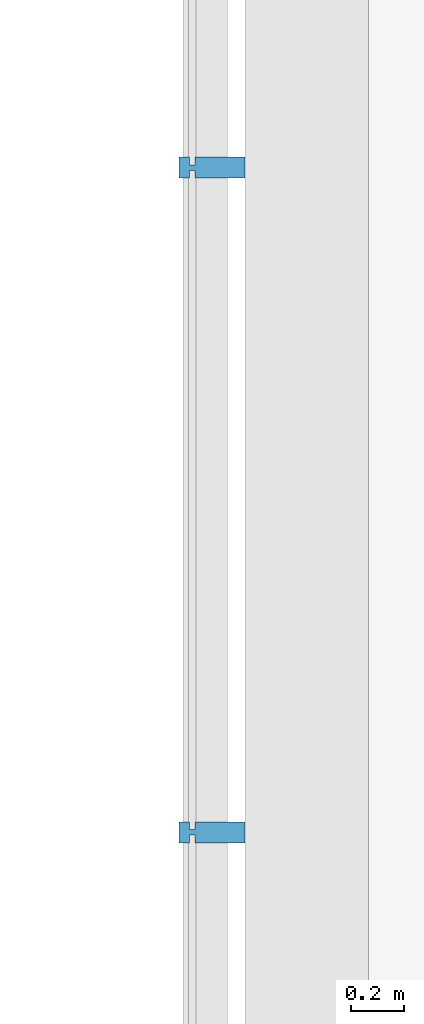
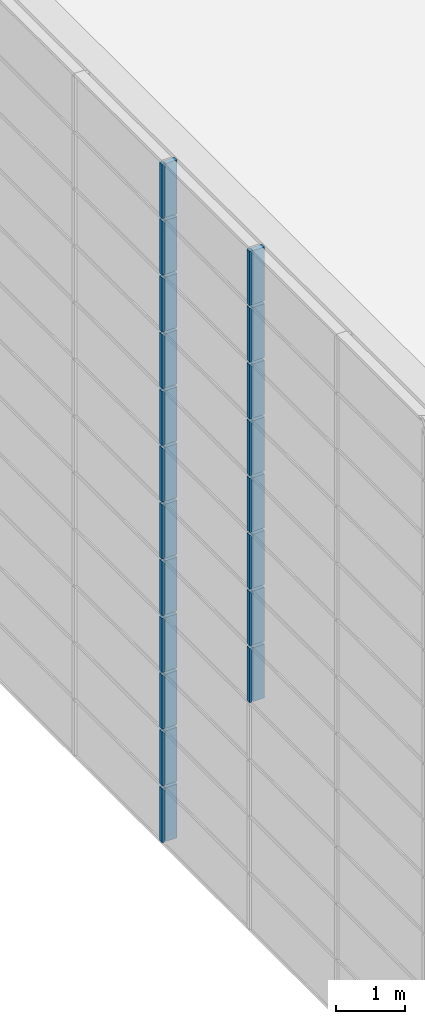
# One storey, part 69 of 105: 20 building element parts, 4 elements without a shape of their own.
"""IFC4 building model written with IfcOpenShell, lengths in millimetres."""

from ifc_helpers import new_model, entity, si_unit, converted_unit, derived_unit, direction, frame, origin_with_axes, place, context, subcontext, project, spatial, triangles, material, element, aggregate, save


model = new_model("IFC4")

# Units and contexts
model_context = context("Model", 3, precision=1e-05, world=origin_with_axes(), true_north=direction((0.0, 1.0)))
body_context = subcontext(model_context, "Body", "Model", "MODEL_VIEW")
ifc_project = project(units=[si_unit("LENGTHUNIT", "METRE", prefix="MILLI"), si_unit("AREAUNIT", "SQUARE_METRE"), si_unit("VOLUMEUNIT", "CUBIC_METRE"), converted_unit("PLANEANGLEUNIT", "DEGREE", entity("IfcLengthMeasure", 0.017453), si_unit("PLANEANGLEUNIT", "RADIAN"), dimensions=[0, 0, 0, 0, 0, 0, 0]), si_unit("SOLIDANGLEUNIT", "STERADIAN"), si_unit("MASSUNIT", "GRAM"), si_unit("TIMEUNIT", "SECOND"), si_unit("THERMODYNAMICTEMPERATUREUNIT", "DEGREE_CELSIUS"), si_unit("LUMINOUSINTENSITYUNIT", "LUMEN"), si_unit("POWERUNIT", "WATT"), derived_unit("THERMALTRANSMITTANCEUNIT", [(si_unit("POWERUNIT", "WATT"), 1), (si_unit("THERMODYNAMICTEMPERATUREUNIT", "KELVIN"), -1), (si_unit("AREAUNIT", "SQUARE_METRE"), -1)])], contexts=[model_context])

# Site, building, storey
site_placement = place(None, origin_with_axes())
site = spatial("IfcSite", under=ifc_project, at=site_placement, Name="Default Site", CompositionType="ELEMENT")
building_placement = place(site_placement, origin_with_axes())
building = spatial("IfcBuilding", under=site, at=building_placement, Name="Default Building", CompositionType="ELEMENT")
storey_placement = place(building_placement, origin_with_axes())
storey = spatial("IfcBuildingStorey", under=building, at=storey_placement, Name="OG - Story", CompositionType="ELEMENT", Elevation=0.0)

# Curtain wall, building element parts
curtain_wall_1_placement = place(storey_placement, origin_with_axes())
curtain_wall_1 = element("IfcCurtainWall", 1, at=curtain_wall_1_placement, inside=storey, Name="Fassade-003", PredefinedType="NOTDEFINED")
ifc_material = material(Name="Blech")
building_element_part_1_placement = place(curtain_wall_1_placement, frame((31551.391327, -51326.104944, 0.0), z_axis=(0.0, 0.0, 1.0), x_axis=(1.0, 0.0, 0.0)))
building_element_part_1 = element("IfcBuildingElementPart", 2, at=building_element_part_1_placement, material=ifc_material, Name="Blech", PredefinedType="NOTDEFINED", context=body_context, shape_type="Tessellation", body=[
    triangles([(200.0, 11328.421, 975.0), (10.0, 11328.421, 975.0), (200.0, 11408.421, 975.0), (10.0, 11358.421, 975.0), (10.0, 11378.421, 975.0), (-9.999, 11358.421, 975.0), (-9.999, 11378.421, 975.0), (-9.999, 11408.421, 975.0), (-9.999, 11328.421, 975.0), (-49.999, 11328.421, 975.0), (-49.999, 11408.421, 975.0), (10.0, 11408.421, 975.0), (10.0, 11378.421, 25.0), (-9.999, 11378.421, 25.0), (-9.999, 11408.421, 25.0), (-49.999, 11408.421, 25.0), (-49.999, 11328.421, 25.0), (-9.999, 11328.421, 25.0), (-9.999, 11358.421, 25.0), (10.0, 11358.421, 25.0), (10.0, 11328.421, 25.0), (200.0, 11328.421, 25.0), (200.0, 11408.421, 25.0), (10.0, 11408.421, 25.0)], [[1, 2, 3], [3, 2, 4], [3, 4, 5], [5, 4, 6], [5, 6, 7], [8, 9, 10], [8, 10, 11], [3, 5, 12], [5, 13, 14], [5, 14, 7], [7, 14, 15], [7, 15, 8], [15, 16, 11], [15, 11, 8], [10, 11, 16], [10, 16, 17], [18, 9, 10], [18, 10, 17], [9, 18, 19], [9, 19, 6], [4, 6, 19], [4, 19, 20], [2, 4, 20], [2, 20, 21], [2, 21, 22], [2, 22, 1], [3, 1, 22], [3, 22, 23], [12, 3, 23], [12, 23, 24], [12, 24, 13], [12, 13, 5], [23, 24, 22], [22, 24, 13], [22, 13, 20], [20, 13, 14], [20, 14, 19], [18, 15, 16], [18, 16, 17], [22, 20, 21]], closed=False),
])
building_element_part_2_placement = place(curtain_wall_1_placement, frame((31551.391327, -51326.104944, 0.0), z_axis=(0.0, 0.0, 1.0), x_axis=(1.0, 0.0, 0.0)))
building_element_part_2 = element("IfcBuildingElementPart", 3, at=building_element_part_2_placement, material=ifc_material, Name="Blech", PredefinedType="NOTDEFINED", context=body_context, shape_type="Tessellation", body=[
    triangles([(200.0, 11328.421, 1975.0), (10.0, 11328.421, 1975.0), (200.0, 11408.421, 1975.0), (10.0, 11358.421, 1975.0), (10.0, 11378.421, 1975.0), (-9.999, 11358.421, 1975.0), (-9.999, 11378.421, 1975.0), (-9.999, 11408.421, 1975.0), (-9.999, 11328.421, 1975.0), (-49.999, 11328.421, 1975.0), (-49.999, 11408.421, 1975.0), (10.0, 11408.421, 1975.0), (10.0, 11378.421, 1025.0), (-9.999, 11378.421, 1025.0), (-9.999, 11408.421, 1025.0), (-49.999, 11408.421, 1025.0), (-49.999, 11328.421, 1025.0), (-9.999, 11328.421, 1025.0), (-9.999, 11358.421, 1025.0), (10.0, 11358.421, 1025.0), (10.0, 11328.421, 1025.0), (200.0, 11328.421, 1025.0), (200.0, 11408.421, 1025.0), (10.0, 11408.421, 1025.0)], [[1, 2, 3], [3, 2, 4], [3, 4, 5], [5, 4, 6], [5, 6, 7], [8, 9, 10], [8, 10, 11], [3, 5, 12], [5, 13, 14], [5, 14, 7], [7, 14, 15], [7, 15, 8], [15, 16, 11], [15, 11, 8], [10, 11, 16], [10, 16, 17], [18, 9, 10], [18, 10, 17], [9, 18, 19], [9, 19, 6], [4, 6, 19], [4, 19, 20], [2, 4, 20], [2, 20, 21], [2, 21, 22], [2, 22, 1], [3, 1, 22], [3, 22, 23], [12, 3, 23], [12, 23, 24], [12, 24, 13], [12, 13, 5], [23, 24, 22], [22, 24, 13], [22, 13, 20], [20, 13, 14], [20, 14, 19], [18, 15, 16], [18, 16, 17], [22, 20, 21]], closed=False),
])
building_element_part_3_placement = place(curtain_wall_1_placement, frame((31551.391327, -51326.104944, 0.0), z_axis=(0.0, 0.0, 1.0), x_axis=(1.0, 0.0, 0.0)))
building_element_part_3 = element("IfcBuildingElementPart", 4, at=building_element_part_3_placement, material=ifc_material, Name="Blech", PredefinedType="NOTDEFINED", context=body_context, shape_type="Tessellation", body=[
    triangles([(200.0, 11328.421, 2975.0), (10.0, 11328.421, 2975.0), (200.0, 11408.421, 2975.0), (10.0, 11358.421, 2975.0), (10.0, 11378.421, 2975.0), (-9.999, 11358.421, 2975.0), (-9.999, 11378.421, 2975.0), (-9.999, 11408.421, 2975.0), (-9.999, 11328.421, 2975.0), (-49.999, 11328.421, 2975.0), (-49.999, 11408.421, 2975.0), (10.0, 11408.421, 2975.0), (10.0, 11378.421, 2025.0), (-9.999, 11378.421, 2025.0), (-9.999, 11408.421, 2025.0), (-49.999, 11408.421, 2025.0), (-49.999, 11328.421, 2025.0), (-9.999, 11328.421, 2025.0), (-9.999, 11358.421, 2025.0), (10.0, 11358.421, 2025.0), (10.0, 11328.421, 2025.0), (200.0, 11328.421, 2025.0), (200.0, 11408.421, 2025.0), (10.0, 11408.421, 2025.0)], [[1, 2, 3], [3, 2, 4], [3, 4, 5], [5, 4, 6], [5, 6, 7], [8, 9, 10], [8, 10, 11], [3, 5, 12], [5, 13, 14], [5, 14, 7], [7, 14, 15], [7, 15, 8], [15, 16, 11], [15, 11, 8], [10, 11, 16], [10, 16, 17], [18, 9, 10], [18, 10, 17], [9, 18, 19], [9, 19, 6], [4, 6, 19], [4, 19, 20], [2, 4, 20], [2, 20, 21], [2, 21, 22], [2, 22, 1], [3, 1, 22], [3, 22, 23], [12, 3, 23], [12, 23, 24], [12, 24, 13], [12, 13, 5], [23, 24, 22], [22, 24, 13], [22, 13, 20], [20, 13, 14], [20, 14, 19], [18, 15, 16], [18, 16, 17], [22, 20, 21]], closed=False),
])
aggregate(curtain_wall_1, [building_element_part_1, building_element_part_2, building_element_part_3])

curtain_wall_2_placement = place(storey_placement, origin_with_axes())
curtain_wall_2 = element("IfcCurtainWall", 5, at=curtain_wall_2_placement, inside=storey, Name="Fassade-003", PredefinedType="NOTDEFINED")
building_element_part_4_placement = place(curtain_wall_2_placement, frame((31551.391327, -51326.104944, 3000.0), z_axis=(0.0, 0.0, 1.0), x_axis=(1.0, 0.0, 0.0)))
building_element_part_4 = element("IfcBuildingElementPart", 6, at=building_element_part_4_placement, material=ifc_material, Name="Blech", PredefinedType="NOTDEFINED", context=body_context, shape_type="Tessellation", body=[
    triangles([(200.0, 11328.421, 975.0), (10.0, 11328.421, 975.0), (200.0, 11408.421, 975.0), (10.0, 11358.421, 975.0), (10.0, 11378.421, 975.0), (-9.999, 11358.421, 975.0), (-9.999, 11378.421, 975.0), (-9.999, 11408.421, 975.0), (-9.999, 11328.421, 975.0), (-49.999, 11328.421, 975.0), (-49.999, 11408.421, 975.0), (10.0, 11408.421, 975.0), (10.0, 11378.421, 25.0), (-9.999, 11378.421, 25.0), (-9.999, 11408.421, 25.0), (-49.999, 11408.421, 25.0), (-49.999, 11328.421, 25.0), (-9.999, 11328.421, 25.0), (-9.999, 11358.421, 25.0), (10.0, 11358.421, 25.0), (10.0, 11328.421, 25.0), (200.0, 11328.421, 25.0), (200.0, 11408.421, 25.0), (10.0, 11408.421, 25.0)], [[1, 2, 3], [3, 2, 4], [3, 4, 5], [5, 4, 6], [5, 6, 7], [8, 9, 10], [8, 10, 11], [3, 5, 12], [5, 13, 14], [5, 14, 7], [7, 14, 15], [7, 15, 8], [15, 16, 11], [15, 11, 8], [10, 11, 16], [10, 16, 17], [18, 9, 10], [18, 10, 17], [9, 18, 19], [9, 19, 6], [4, 6, 19], [4, 19, 20], [2, 4, 20], [2, 20, 21], [2, 21, 22], [2, 22, 1], [3, 1, 22], [3, 22, 23], [12, 3, 23], [12, 23, 24], [12, 24, 13], [12, 13, 5], [23, 24, 22], [22, 24, 13], [22, 13, 20], [20, 13, 14], [20, 14, 19], [18, 15, 16], [18, 16, 17], [22, 20, 21]], closed=False),
])
building_element_part_5_placement = place(curtain_wall_2_placement, frame((31551.391327, -51326.104944, 3000.0), z_axis=(0.0, 0.0, 1.0), x_axis=(1.0, 0.0, 0.0)))
building_element_part_5 = element("IfcBuildingElementPart", 7, at=building_element_part_5_placement, material=ifc_material, Name="Blech", PredefinedType="NOTDEFINED", context=body_context, shape_type="Tessellation", body=[
    triangles([(200.0, 8802.105, 1975.0), (10.0, 8802.105, 1975.0), (200.0, 8882.105, 1975.0), (10.0, 8832.105, 1975.0), (10.0, 8852.105, 1975.0), (-9.999, 8832.105, 1975.0), (-9.999, 8852.105, 1975.0), (-9.999, 8882.105, 1975.0), (-9.999, 8802.105, 1975.0), (-49.999, 8802.105, 1975.0), (-49.999, 8882.105, 1975.0), (10.0, 8882.105, 1975.0), (10.0, 8852.105, 1025.0), (-9.999, 8852.105, 1025.0), (-9.999, 8882.105, 1025.0), (-49.999, 8882.105, 1025.0), (-49.999, 8802.105, 1025.0), (-9.999, 8802.105, 1025.0), (-9.999, 8832.105, 1025.0), (10.0, 8832.105, 1025.0), (10.0, 8802.105, 1025.0), (200.0, 8802.105, 1025.0), (200.0, 8882.105, 1025.0), (10.0, 8882.105, 1025.0)], [[1, 2, 3], [3, 2, 4], [3, 4, 5], [5, 4, 6], [5, 6, 7], [8, 9, 10], [8, 10, 11], [3, 5, 12], [5, 13, 14], [5, 14, 7], [7, 14, 15], [7, 15, 8], [15, 16, 11], [15, 11, 8], [10, 11, 16], [10, 16, 17], [18, 9, 10], [18, 10, 17], [9, 18, 19], [9, 19, 6], [4, 6, 19], [4, 19, 20], [2, 4, 20], [2, 20, 21], [2, 21, 22], [2, 22, 1], [3, 1, 22], [3, 22, 23], [12, 3, 23], [12, 23, 24], [12, 24, 13], [12, 13, 5], [23, 24, 22], [22, 24, 13], [22, 13, 20], [20, 13, 14], [20, 14, 19], [18, 15, 16], [18, 16, 17], [22, 20, 21]], closed=False),
])
building_element_part_6_placement = place(curtain_wall_2_placement, frame((31551.391327, -51326.104944, 3000.0), z_axis=(0.0, 0.0, 1.0), x_axis=(1.0, 0.0, 0.0)))
building_element_part_6 = element("IfcBuildingElementPart", 8, at=building_element_part_6_placement, material=ifc_material, Name="Blech", PredefinedType="NOTDEFINED", context=body_context, shape_type="Tessellation", body=[
    triangles([(200.0, 11328.421, 1975.0), (10.0, 11328.421, 1975.0), (200.0, 11408.421, 1975.0), (10.0, 11358.421, 1975.0), (10.0, 11378.421, 1975.0), (-9.999, 11358.421, 1975.0), (-9.999, 11378.421, 1975.0), (-9.999, 11408.421, 1975.0), (-9.999, 11328.421, 1975.0), (-49.999, 11328.421, 1975.0), (-49.999, 11408.421, 1975.0), (10.0, 11408.421, 1975.0), (10.0, 11378.421, 1025.0), (-9.999, 11378.421, 1025.0), (-9.999, 11408.421, 1025.0), (-49.999, 11408.421, 1025.0), (-49.999, 11328.421, 1025.0), (-9.999, 11328.421, 1025.0), (-9.999, 11358.421, 1025.0), (10.0, 11358.421, 1025.0), (10.0, 11328.421, 1025.0), (200.0, 11328.421, 1025.0), (200.0, 11408.421, 1025.0), (10.0, 11408.421, 1025.0)], [[1, 2, 3], [3, 2, 4], [3, 4, 5], [5, 4, 6], [5, 6, 7], [8, 9, 10], [8, 10, 11], [3, 5, 12], [5, 13, 14], [5, 14, 7], [7, 14, 15], [7, 15, 8], [15, 16, 11], [15, 11, 8], [10, 11, 16], [10, 16, 17], [18, 9, 10], [18, 10, 17], [9, 18, 19], [9, 19, 6], [4, 6, 19], [4, 19, 20], [2, 4, 20], [2, 20, 21], [2, 21, 22], [2, 22, 1], [3, 1, 22], [3, 22, 23], [12, 3, 23], [12, 23, 24], [12, 24, 13], [12, 13, 5], [23, 24, 22], [22, 24, 13], [22, 13, 20], [20, 13, 14], [20, 14, 19], [18, 15, 16], [18, 16, 17], [22, 20, 21]], closed=False),
])
building_element_part_7_placement = place(curtain_wall_2_placement, frame((31551.391327, -51326.104944, 3000.0), z_axis=(0.0, 0.0, 1.0), x_axis=(1.0, 0.0, 0.0)))
building_element_part_7 = element("IfcBuildingElementPart", 9, at=building_element_part_7_placement, material=ifc_material, Name="Blech", PredefinedType="NOTDEFINED", context=body_context, shape_type="Tessellation", body=[
    triangles([(200.0, 8802.105, 2975.0), (10.0, 8802.105, 2975.0), (200.0, 8882.105, 2975.0), (10.0, 8832.105, 2975.0), (10.0, 8852.105, 2975.0), (-9.999, 8832.105, 2975.0), (-9.999, 8852.105, 2975.0), (-9.999, 8882.105, 2975.0), (-9.999, 8802.105, 2975.0), (-49.999, 8802.105, 2975.0), (-49.999, 8882.105, 2975.0), (10.0, 8882.105, 2975.0), (10.0, 8852.105, 2025.0), (-9.999, 8852.105, 2025.0), (-9.999, 8882.105, 2025.0), (-49.999, 8882.105, 2025.0), (-49.999, 8802.105, 2025.0), (-9.999, 8802.105, 2025.0), (-9.999, 8832.105, 2025.0), (10.0, 8832.105, 2025.0), (10.0, 8802.105, 2025.0), (200.0, 8802.105, 2025.0), (200.0, 8882.105, 2025.0), (10.0, 8882.105, 2025.0)], [[1, 2, 3], [3, 2, 4], [3, 4, 5], [5, 4, 6], [5, 6, 7], [8, 9, 10], [8, 10, 11], [3, 5, 12], [5, 13, 14], [5, 14, 7], [7, 14, 15], [7, 15, 8], [15, 16, 11], [15, 11, 8], [10, 11, 16], [10, 16, 17], [18, 9, 10], [18, 10, 17], [9, 18, 19], [9, 19, 6], [4, 6, 19], [4, 19, 20], [2, 4, 20], [2, 20, 21], [2, 21, 22], [2, 22, 1], [3, 1, 22], [3, 22, 23], [12, 3, 23], [12, 23, 24], [12, 24, 13], [12, 13, 5], [23, 24, 22], [22, 24, 13], [22, 13, 20], [20, 13, 14], [20, 14, 19], [18, 15, 16], [18, 16, 17], [22, 20, 21]], closed=False),
])
building_element_part_8_placement = place(curtain_wall_2_placement, frame((31551.391327, -51326.104944, 3000.0), z_axis=(0.0, 0.0, 1.0), x_axis=(1.0, 0.0, 0.0)))
building_element_part_8 = element("IfcBuildingElementPart", 10, at=building_element_part_8_placement, material=ifc_material, Name="Blech", PredefinedType="NOTDEFINED", context=body_context, shape_type="Tessellation", body=[
    triangles([(200.0, 11328.421, 2975.0), (10.0, 11328.421, 2975.0), (200.0, 11408.421, 2975.0), (10.0, 11358.421, 2975.0), (10.0, 11378.421, 2975.0), (-9.999, 11358.421, 2975.0), (-9.999, 11378.421, 2975.0), (-9.999, 11408.421, 2975.0), (-9.999, 11328.421, 2975.0), (-49.999, 11328.421, 2975.0), (-49.999, 11408.421, 2975.0), (10.0, 11408.421, 2975.0), (10.0, 11378.421, 2025.0), (-9.999, 11378.421, 2025.0), (-9.999, 11408.421, 2025.0), (-49.999, 11408.421, 2025.0), (-49.999, 11328.421, 2025.0), (-9.999, 11328.421, 2025.0), (-9.999, 11358.421, 2025.0), (10.0, 11358.421, 2025.0), (10.0, 11328.421, 2025.0), (200.0, 11328.421, 2025.0), (200.0, 11408.421, 2025.0), (10.0, 11408.421, 2025.0)], [[1, 2, 3], [3, 2, 4], [3, 4, 5], [5, 4, 6], [5, 6, 7], [8, 9, 10], [8, 10, 11], [3, 5, 12], [5, 13, 14], [5, 14, 7], [7, 14, 15], [7, 15, 8], [15, 16, 11], [15, 11, 8], [10, 11, 16], [10, 16, 17], [18, 9, 10], [18, 10, 17], [9, 18, 19], [9, 19, 6], [4, 6, 19], [4, 19, 20], [2, 4, 20], [2, 20, 21], [2, 21, 22], [2, 22, 1], [3, 1, 22], [3, 22, 23], [12, 3, 23], [12, 23, 24], [12, 24, 13], [12, 13, 5], [23, 24, 22], [22, 24, 13], [22, 13, 20], [20, 13, 14], [20, 14, 19], [18, 15, 16], [18, 16, 17], [22, 20, 21]], closed=False),
])
aggregate(curtain_wall_2, [building_element_part_4, building_element_part_5, building_element_part_6, building_element_part_7, building_element_part_8])

curtain_wall_3_placement = place(storey_placement, origin_with_axes())
curtain_wall_3 = element("IfcCurtainWall", 11, at=curtain_wall_3_placement, inside=storey, Name="Fassade-003", PredefinedType="NOTDEFINED")
building_element_part_9_placement = place(curtain_wall_3_placement, frame((31551.391327, -51326.104944, 6000.0), z_axis=(0.0, 0.0, 1.0), x_axis=(1.0, 0.0, 0.0)))
building_element_part_9 = element("IfcBuildingElementPart", 12, at=building_element_part_9_placement, material=ifc_material, Name="Blech", PredefinedType="NOTDEFINED", context=body_context, shape_type="Tessellation", body=[
    triangles([(200.0, 8802.105, 975.0), (10.0, 8802.105, 975.0), (200.0, 8882.105, 975.0), (10.0, 8832.105, 975.0), (10.0, 8852.105, 975.0), (-9.999, 8832.105, 975.0), (-9.999, 8852.105, 975.0), (-9.999, 8882.105, 975.0), (-9.999, 8802.105, 975.0), (-49.999, 8802.105, 975.0), (-49.999, 8882.105, 975.0), (10.0, 8882.105, 975.0), (10.0, 8852.105, 25.0), (-9.999, 8852.105, 25.0), (-9.999, 8882.105, 25.0), (-49.999, 8882.105, 25.0), (-49.999, 8802.105, 25.0), (-9.999, 8802.105, 25.0), (-9.999, 8832.105, 25.0), (10.0, 8832.105, 25.0), (10.0, 8802.105, 25.0), (200.0, 8802.105, 25.0), (200.0, 8882.105, 25.0), (10.0, 8882.105, 25.0)], [[1, 2, 3], [3, 2, 4], [3, 4, 5], [5, 4, 6], [5, 6, 7], [8, 9, 10], [8, 10, 11], [3, 5, 12], [5, 13, 14], [5, 14, 7], [7, 14, 15], [7, 15, 8], [15, 16, 11], [15, 11, 8], [10, 11, 16], [10, 16, 17], [18, 9, 10], [18, 10, 17], [9, 18, 19], [9, 19, 6], [4, 6, 19], [4, 19, 20], [2, 4, 20], [2, 20, 21], [2, 21, 22], [2, 22, 1], [3, 1, 22], [3, 22, 23], [12, 3, 23], [12, 23, 24], [12, 24, 13], [12, 13, 5], [23, 24, 22], [22, 24, 13], [22, 13, 20], [20, 13, 14], [20, 14, 19], [18, 15, 16], [18, 16, 17], [22, 20, 21]], closed=False),
])
building_element_part_10_placement = place(curtain_wall_3_placement, frame((31551.391327, -51326.104944, 6000.0), z_axis=(0.0, 0.0, 1.0), x_axis=(1.0, 0.0, 0.0)))
building_element_part_10 = element("IfcBuildingElementPart", 13, at=building_element_part_10_placement, material=ifc_material, Name="Blech", PredefinedType="NOTDEFINED", context=body_context, shape_type="Tessellation", body=[
    triangles([(200.0, 11328.421, 975.0), (10.0, 11328.421, 975.0), (200.0, 11408.421, 975.0), (10.0, 11358.421, 975.0), (10.0, 11378.421, 975.0), (-9.999, 11358.421, 975.0), (-9.999, 11378.421, 975.0), (-9.999, 11408.421, 975.0), (-9.999, 11328.421, 975.0), (-49.999, 11328.421, 975.0), (-49.999, 11408.421, 975.0), (10.0, 11408.421, 975.0), (10.0, 11378.421, 25.0), (-9.999, 11378.421, 25.0), (-9.999, 11408.421, 25.0), (-49.999, 11408.421, 25.0), (-49.999, 11328.421, 25.0), (-9.999, 11328.421, 25.0), (-9.999, 11358.421, 25.0), (10.0, 11358.421, 25.0), (10.0, 11328.421, 25.0), (200.0, 11328.421, 25.0), (200.0, 11408.421, 25.0), (10.0, 11408.421, 25.0)], [[1, 2, 3], [3, 2, 4], [3, 4, 5], [5, 4, 6], [5, 6, 7], [8, 9, 10], [8, 10, 11], [3, 5, 12], [5, 13, 14], [5, 14, 7], [7, 14, 15], [7, 15, 8], [15, 16, 11], [15, 11, 8], [10, 11, 16], [10, 16, 17], [18, 9, 10], [18, 10, 17], [9, 18, 19], [9, 19, 6], [4, 6, 19], [4, 19, 20], [2, 4, 20], [2, 20, 21], [2, 21, 22], [2, 22, 1], [3, 1, 22], [3, 22, 23], [12, 3, 23], [12, 23, 24], [12, 24, 13], [12, 13, 5], [23, 24, 22], [22, 24, 13], [22, 13, 20], [20, 13, 14], [20, 14, 19], [18, 15, 16], [18, 16, 17], [22, 20, 21]], closed=False),
])
building_element_part_11_placement = place(curtain_wall_3_placement, frame((31551.391327, -51326.104944, 6000.0), z_axis=(0.0, 0.0, 1.0), x_axis=(1.0, 0.0, 0.0)))
building_element_part_11 = element("IfcBuildingElementPart", 14, at=building_element_part_11_placement, material=ifc_material, Name="Blech", PredefinedType="NOTDEFINED", context=body_context, shape_type="Tessellation", body=[
    triangles([(200.0, 8802.105, 1975.0), (10.0, 8802.105, 1975.0), (200.0, 8882.105, 1975.0), (10.0, 8832.105, 1975.0), (10.0, 8852.105, 1975.0), (-9.999, 8832.105, 1975.0), (-9.999, 8852.105, 1975.0), (-9.999, 8882.105, 1975.0), (-9.999, 8802.105, 1975.0), (-49.999, 8802.105, 1975.0), (-49.999, 8882.105, 1975.0), (10.0, 8882.105, 1975.0), (10.0, 8852.105, 1025.0), (-9.999, 8852.105, 1025.0), (-9.999, 8882.105, 1025.0), (-49.999, 8882.105, 1025.0), (-49.999, 8802.105, 1025.0), (-9.999, 8802.105, 1025.0), (-9.999, 8832.105, 1025.0), (10.0, 8832.105, 1025.0), (10.0, 8802.105, 1025.0), (200.0, 8802.105, 1025.0), (200.0, 8882.105, 1025.0), (10.0, 8882.105, 1025.0)], [[1, 2, 3], [3, 2, 4], [3, 4, 5], [5, 4, 6], [5, 6, 7], [8, 9, 10], [8, 10, 11], [3, 5, 12], [5, 13, 14], [5, 14, 7], [7, 14, 15], [7, 15, 8], [15, 16, 11], [15, 11, 8], [10, 11, 16], [10, 16, 17], [18, 9, 10], [18, 10, 17], [9, 18, 19], [9, 19, 6], [4, 6, 19], [4, 19, 20], [2, 4, 20], [2, 20, 21], [2, 21, 22], [2, 22, 1], [3, 1, 22], [3, 22, 23], [12, 3, 23], [12, 23, 24], [12, 24, 13], [12, 13, 5], [23, 24, 22], [22, 24, 13], [22, 13, 20], [20, 13, 14], [20, 14, 19], [18, 15, 16], [18, 16, 17], [22, 20, 21]], closed=False),
])
building_element_part_12_placement = place(curtain_wall_3_placement, frame((31551.391327, -51326.104944, 6000.0), z_axis=(0.0, 0.0, 1.0), x_axis=(1.0, 0.0, 0.0)))
building_element_part_12 = element("IfcBuildingElementPart", 15, at=building_element_part_12_placement, material=ifc_material, Name="Blech", PredefinedType="NOTDEFINED", context=body_context, shape_type="Tessellation", body=[
    triangles([(200.0, 11328.421, 1975.0), (10.0, 11328.421, 1975.0), (200.0, 11408.421, 1975.0), (10.0, 11358.421, 1975.0), (10.0, 11378.421, 1975.0), (-9.999, 11358.421, 1975.0), (-9.999, 11378.421, 1975.0), (-9.999, 11408.421, 1975.0), (-9.999, 11328.421, 1975.0), (-49.999, 11328.421, 1975.0), (-49.999, 11408.421, 1975.0), (10.0, 11408.421, 1975.0), (10.0, 11378.421, 1025.0), (-9.999, 11378.421, 1025.0), (-9.999, 11408.421, 1025.0), (-49.999, 11408.421, 1025.0), (-49.999, 11328.421, 1025.0), (-9.999, 11328.421, 1025.0), (-9.999, 11358.421, 1025.0), (10.0, 11358.421, 1025.0), (10.0, 11328.421, 1025.0), (200.0, 11328.421, 1025.0), (200.0, 11408.421, 1025.0), (10.0, 11408.421, 1025.0)], [[1, 2, 3], [3, 2, 4], [3, 4, 5], [5, 4, 6], [5, 6, 7], [8, 9, 10], [8, 10, 11], [3, 5, 12], [5, 13, 14], [5, 14, 7], [7, 14, 15], [7, 15, 8], [15, 16, 11], [15, 11, 8], [10, 11, 16], [10, 16, 17], [18, 9, 10], [18, 10, 17], [9, 18, 19], [9, 19, 6], [4, 6, 19], [4, 19, 20], [2, 4, 20], [2, 20, 21], [2, 21, 22], [2, 22, 1], [3, 1, 22], [3, 22, 23], [12, 3, 23], [12, 23, 24], [12, 24, 13], [12, 13, 5], [23, 24, 22], [22, 24, 13], [22, 13, 20], [20, 13, 14], [20, 14, 19], [18, 15, 16], [18, 16, 17], [22, 20, 21]], closed=False),
])
building_element_part_13_placement = place(curtain_wall_3_placement, frame((31551.391327, -51326.104944, 6000.0), z_axis=(0.0, 0.0, 1.0), x_axis=(1.0, 0.0, 0.0)))
building_element_part_13 = element("IfcBuildingElementPart", 16, at=building_element_part_13_placement, material=ifc_material, Name="Blech", PredefinedType="NOTDEFINED", context=body_context, shape_type="Tessellation", body=[
    triangles([(200.0, 8802.105, 2975.0), (10.0, 8802.105, 2975.0), (200.0, 8882.105, 2975.0), (10.0, 8832.105, 2975.0), (10.0, 8852.105, 2975.0), (-9.999, 8832.105, 2975.0), (-9.999, 8852.105, 2975.0), (-9.999, 8882.105, 2975.0), (-9.999, 8802.105, 2975.0), (-49.999, 8802.105, 2975.0), (-49.999, 8882.105, 2975.0), (10.0, 8882.105, 2975.0), (10.0, 8852.105, 2025.0), (-9.999, 8852.105, 2025.0), (-9.999, 8882.105, 2025.0), (-49.999, 8882.105, 2025.0), (-49.999, 8802.105, 2025.0), (-9.999, 8802.105, 2025.0), (-9.999, 8832.105, 2025.0), (10.0, 8832.105, 2025.0), (10.0, 8802.105, 2025.0), (200.0, 8802.105, 2025.0), (200.0, 8882.105, 2025.0), (10.0, 8882.105, 2025.0)], [[1, 2, 3], [3, 2, 4], [3, 4, 5], [5, 4, 6], [5, 6, 7], [8, 9, 10], [8, 10, 11], [3, 5, 12], [5, 13, 14], [5, 14, 7], [7, 14, 15], [7, 15, 8], [15, 16, 11], [15, 11, 8], [10, 11, 16], [10, 16, 17], [18, 9, 10], [18, 10, 17], [9, 18, 19], [9, 19, 6], [4, 6, 19], [4, 19, 20], [2, 4, 20], [2, 20, 21], [2, 21, 22], [2, 22, 1], [3, 1, 22], [3, 22, 23], [12, 3, 23], [12, 23, 24], [12, 24, 13], [12, 13, 5], [23, 24, 22], [22, 24, 13], [22, 13, 20], [20, 13, 14], [20, 14, 19], [18, 15, 16], [18, 16, 17], [22, 20, 21]], closed=False),
])
building_element_part_14_placement = place(curtain_wall_3_placement, frame((31551.391327, -51326.104944, 6000.0), z_axis=(0.0, 0.0, 1.0), x_axis=(1.0, 0.0, 0.0)))
building_element_part_14 = element("IfcBuildingElementPart", 17, at=building_element_part_14_placement, material=ifc_material, Name="Blech", PredefinedType="NOTDEFINED", context=body_context, shape_type="Tessellation", body=[
    triangles([(200.0, 11328.421, 2975.0), (10.0, 11328.421, 2975.0), (200.0, 11408.421, 2975.0), (10.0, 11358.421, 2975.0), (10.0, 11378.421, 2975.0), (-9.999, 11358.421, 2975.0), (-9.999, 11378.421, 2975.0), (-9.999, 11408.421, 2975.0), (-9.999, 11328.421, 2975.0), (-49.999, 11328.421, 2975.0), (-49.999, 11408.421, 2975.0), (10.0, 11408.421, 2975.0), (10.0, 11378.421, 2025.0), (-9.999, 11378.421, 2025.0), (-9.999, 11408.421, 2025.0), (-49.999, 11408.421, 2025.0), (-49.999, 11328.421, 2025.0), (-9.999, 11328.421, 2025.0), (-9.999, 11358.421, 2025.0), (10.0, 11358.421, 2025.0), (10.0, 11328.421, 2025.0), (200.0, 11328.421, 2025.0), (200.0, 11408.421, 2025.0), (10.0, 11408.421, 2025.0)], [[1, 2, 3], [3, 2, 4], [3, 4, 5], [5, 4, 6], [5, 6, 7], [8, 9, 10], [8, 10, 11], [3, 5, 12], [5, 13, 14], [5, 14, 7], [7, 14, 15], [7, 15, 8], [15, 16, 11], [15, 11, 8], [10, 11, 16], [10, 16, 17], [18, 9, 10], [18, 10, 17], [9, 18, 19], [9, 19, 6], [4, 6, 19], [4, 19, 20], [2, 4, 20], [2, 20, 21], [2, 21, 22], [2, 22, 1], [3, 1, 22], [3, 22, 23], [12, 3, 23], [12, 23, 24], [12, 24, 13], [12, 13, 5], [23, 24, 22], [22, 24, 13], [22, 13, 20], [20, 13, 14], [20, 14, 19], [18, 15, 16], [18, 16, 17], [22, 20, 21]], closed=False),
])
aggregate(curtain_wall_3, [building_element_part_9, building_element_part_10, building_element_part_11, building_element_part_12, building_element_part_13, building_element_part_14])

curtain_wall_4_placement = place(storey_placement, origin_with_axes())
curtain_wall_4 = element("IfcCurtainWall", 18, at=curtain_wall_4_placement, inside=storey, Name="Fassade-003", PredefinedType="NOTDEFINED")
building_element_part_15_placement = place(curtain_wall_4_placement, frame((31551.391327, -51326.104944, 9000.0), z_axis=(0.0, 0.0, 1.0), x_axis=(1.0, 0.0, 0.0)))
building_element_part_15 = element("IfcBuildingElementPart", 19, at=building_element_part_15_placement, material=ifc_material, Name="Blech", PredefinedType="NOTDEFINED", context=body_context, shape_type="Tessellation", body=[
    triangles([(200.0, 8802.105, 975.0), (10.0, 8802.105, 975.0), (200.0, 8882.105, 975.0), (10.0, 8832.105, 975.0), (10.0, 8852.105, 975.0), (-9.999, 8832.105, 975.0), (-9.999, 8852.105, 975.0), (-9.999, 8882.105, 975.0), (-9.999, 8802.105, 975.0), (-49.999, 8802.105, 975.0), (-49.999, 8882.105, 975.0), (10.0, 8882.105, 975.0), (10.0, 8852.105, 25.0), (-9.999, 8852.105, 25.0), (-9.999, 8882.105, 25.0), (-49.999, 8882.105, 25.0), (-49.999, 8802.105, 25.0), (-9.999, 8802.105, 25.0), (-9.999, 8832.105, 25.0), (10.0, 8832.105, 25.0), (10.0, 8802.105, 25.0), (200.0, 8802.105, 25.0), (200.0, 8882.105, 25.0), (10.0, 8882.105, 25.0)], [[1, 2, 3], [3, 2, 4], [3, 4, 5], [5, 4, 6], [5, 6, 7], [8, 9, 10], [8, 10, 11], [3, 5, 12], [5, 13, 14], [5, 14, 7], [7, 14, 15], [7, 15, 8], [15, 16, 11], [15, 11, 8], [10, 11, 16], [10, 16, 17], [18, 9, 10], [18, 10, 17], [9, 18, 19], [9, 19, 6], [4, 6, 19], [4, 19, 20], [2, 4, 20], [2, 20, 21], [2, 21, 22], [2, 22, 1], [3, 1, 22], [3, 22, 23], [12, 3, 23], [12, 23, 24], [12, 24, 13], [12, 13, 5], [23, 24, 22], [22, 24, 13], [22, 13, 20], [20, 13, 14], [20, 14, 19], [18, 15, 16], [18, 16, 17], [22, 20, 21]], closed=False),
])
building_element_part_16_placement = place(curtain_wall_4_placement, frame((31551.391327, -51326.104944, 9000.0), z_axis=(0.0, 0.0, 1.0), x_axis=(1.0, 0.0, 0.0)))
building_element_part_16 = element("IfcBuildingElementPart", 20, at=building_element_part_16_placement, material=ifc_material, Name="Blech", PredefinedType="NOTDEFINED", context=body_context, shape_type="Tessellation", body=[
    triangles([(200.0, 11328.421, 975.0), (10.0, 11328.421, 975.0), (200.0, 11408.421, 975.0), (10.0, 11358.421, 975.0), (10.0, 11378.421, 975.0), (-9.999, 11358.421, 975.0), (-9.999, 11378.421, 975.0), (-9.999, 11408.421, 975.0), (-9.999, 11328.421, 975.0), (-49.999, 11328.421, 975.0), (-49.999, 11408.421, 975.0), (10.0, 11408.421, 975.0), (10.0, 11378.421, 25.0), (-9.999, 11378.421, 25.0), (-9.999, 11408.421, 25.0), (-49.999, 11408.421, 25.0), (-49.999, 11328.421, 25.0), (-9.999, 11328.421, 25.0), (-9.999, 11358.421, 25.0), (10.0, 11358.421, 25.0), (10.0, 11328.421, 25.0), (200.0, 11328.421, 25.0), (200.0, 11408.421, 25.0), (10.0, 11408.421, 25.0)], [[1, 2, 3], [3, 2, 4], [3, 4, 5], [5, 4, 6], [5, 6, 7], [8, 9, 10], [8, 10, 11], [3, 5, 12], [5, 13, 14], [5, 14, 7], [7, 14, 15], [7, 15, 8], [15, 16, 11], [15, 11, 8], [10, 11, 16], [10, 16, 17], [18, 9, 10], [18, 10, 17], [9, 18, 19], [9, 19, 6], [4, 6, 19], [4, 19, 20], [2, 4, 20], [2, 20, 21], [2, 21, 22], [2, 22, 1], [3, 1, 22], [3, 22, 23], [12, 3, 23], [12, 23, 24], [12, 24, 13], [12, 13, 5], [23, 24, 22], [22, 24, 13], [22, 13, 20], [20, 13, 14], [20, 14, 19], [18, 15, 16], [18, 16, 17], [22, 20, 21]], closed=False),
])
building_element_part_17_placement = place(curtain_wall_4_placement, frame((31551.391327, -51326.104944, 9000.0), z_axis=(0.0, 0.0, 1.0), x_axis=(1.0, 0.0, 0.0)))
building_element_part_17 = element("IfcBuildingElementPart", 21, at=building_element_part_17_placement, material=ifc_material, Name="Blech", PredefinedType="NOTDEFINED", context=body_context, shape_type="Tessellation", body=[
    triangles([(200.0, 8802.105, 1975.0), (10.0, 8802.105, 1975.0), (200.0, 8882.105, 1975.0), (10.0, 8832.105, 1975.0), (10.0, 8852.105, 1975.0), (-9.999, 8832.105, 1975.0), (-9.999, 8852.105, 1975.0), (-9.999, 8882.105, 1975.0), (-9.999, 8802.105, 1975.0), (-49.999, 8802.105, 1975.0), (-49.999, 8882.105, 1975.0), (10.0, 8882.105, 1975.0), (10.0, 8852.105, 1025.0), (-9.999, 8852.105, 1025.0), (-9.999, 8882.105, 1025.0), (-49.999, 8882.105, 1025.0), (-49.999, 8802.105, 1025.0), (-9.999, 8802.105, 1025.0), (-9.999, 8832.105, 1025.0), (10.0, 8832.105, 1025.0), (10.0, 8802.105, 1025.0), (200.0, 8802.105, 1025.0), (200.0, 8882.105, 1025.0), (10.0, 8882.105, 1025.0)], [[1, 2, 3], [3, 2, 4], [3, 4, 5], [5, 4, 6], [5, 6, 7], [8, 9, 10], [8, 10, 11], [3, 5, 12], [5, 13, 14], [5, 14, 7], [7, 14, 15], [7, 15, 8], [15, 16, 11], [15, 11, 8], [10, 11, 16], [10, 16, 17], [18, 9, 10], [18, 10, 17], [9, 18, 19], [9, 19, 6], [4, 6, 19], [4, 19, 20], [2, 4, 20], [2, 20, 21], [2, 21, 22], [2, 22, 1], [3, 1, 22], [3, 22, 23], [12, 3, 23], [12, 23, 24], [12, 24, 13], [12, 13, 5], [23, 24, 22], [22, 24, 13], [22, 13, 20], [20, 13, 14], [20, 14, 19], [18, 15, 16], [18, 16, 17], [22, 20, 21]], closed=False),
])
building_element_part_18_placement = place(curtain_wall_4_placement, frame((31551.391327, -51326.104944, 9000.0), z_axis=(0.0, 0.0, 1.0), x_axis=(1.0, 0.0, 0.0)))
building_element_part_18 = element("IfcBuildingElementPart", 22, at=building_element_part_18_placement, material=ifc_material, Name="Blech", PredefinedType="NOTDEFINED", context=body_context, shape_type="Tessellation", body=[
    triangles([(200.0, 11328.421, 1975.0), (10.0, 11328.421, 1975.0), (200.0, 11408.421, 1975.0), (10.0, 11358.421, 1975.0), (10.0, 11378.421, 1975.0), (-9.999, 11358.421, 1975.0), (-9.999, 11378.421, 1975.0), (-9.999, 11408.421, 1975.0), (-9.999, 11328.421, 1975.0), (-49.999, 11328.421, 1975.0), (-49.999, 11408.421, 1975.0), (10.0, 11408.421, 1975.0), (10.0, 11378.421, 1025.0), (-9.999, 11378.421, 1025.0), (-9.999, 11408.421, 1025.0), (-49.999, 11408.421, 1025.0), (-49.999, 11328.421, 1025.0), (-9.999, 11328.421, 1025.0), (-9.999, 11358.421, 1025.0), (10.0, 11358.421, 1025.0), (10.0, 11328.421, 1025.0), (200.0, 11328.421, 1025.0), (200.0, 11408.421, 1025.0), (10.0, 11408.421, 1025.0)], [[1, 2, 3], [3, 2, 4], [3, 4, 5], [5, 4, 6], [5, 6, 7], [8, 9, 10], [8, 10, 11], [3, 5, 12], [5, 13, 14], [5, 14, 7], [7, 14, 15], [7, 15, 8], [15, 16, 11], [15, 11, 8], [10, 11, 16], [10, 16, 17], [18, 9, 10], [18, 10, 17], [9, 18, 19], [9, 19, 6], [4, 6, 19], [4, 19, 20], [2, 4, 20], [2, 20, 21], [2, 21, 22], [2, 22, 1], [3, 1, 22], [3, 22, 23], [12, 3, 23], [12, 23, 24], [12, 24, 13], [12, 13, 5], [23, 24, 22], [22, 24, 13], [22, 13, 20], [20, 13, 14], [20, 14, 19], [18, 15, 16], [18, 16, 17], [22, 20, 21]], closed=False),
])
building_element_part_19_placement = place(curtain_wall_4_placement, frame((31551.391327, -51326.104944, 9000.0), z_axis=(0.0, 0.0, 1.0), x_axis=(1.0, 0.0, 0.0)))
building_element_part_19 = element("IfcBuildingElementPart", 23, at=building_element_part_19_placement, material=ifc_material, Name="Blech", PredefinedType="NOTDEFINED", context=body_context, shape_type="Tessellation", body=[
    triangles([(200.0, 8802.105, 2975.0), (10.0, 8802.105, 2975.0), (200.0, 8882.105, 2975.0), (10.0, 8832.105, 2975.0), (10.0, 8852.105, 2975.0), (-9.999, 8832.105, 2975.0), (-9.999, 8852.105, 2975.0), (-9.999, 8882.105, 2975.0), (-9.999, 8802.105, 2975.0), (-49.999, 8802.105, 2975.0), (-49.999, 8882.105, 2975.0), (10.0, 8882.105, 2975.0), (10.0, 8852.105, 2025.0), (-9.999, 8852.105, 2025.0), (-9.999, 8882.105, 2025.0), (-49.999, 8882.105, 2025.0), (-49.999, 8802.105, 2025.0), (-9.999, 8802.105, 2025.0), (-9.999, 8832.105, 2025.0), (10.0, 8832.105, 2025.0), (10.0, 8802.105, 2025.0), (200.0, 8802.105, 2025.0), (200.0, 8882.105, 2025.0), (10.0, 8882.105, 2025.0)], [[1, 2, 3], [3, 2, 4], [3, 4, 5], [5, 4, 6], [5, 6, 7], [8, 9, 10], [8, 10, 11], [3, 5, 12], [5, 13, 14], [5, 14, 7], [7, 14, 15], [7, 15, 8], [15, 16, 11], [15, 11, 8], [10, 11, 16], [10, 16, 17], [18, 9, 10], [18, 10, 17], [9, 18, 19], [9, 19, 6], [4, 6, 19], [4, 19, 20], [2, 4, 20], [2, 20, 21], [2, 21, 22], [2, 22, 1], [3, 1, 22], [3, 22, 23], [12, 3, 23], [12, 23, 24], [12, 24, 13], [12, 13, 5], [23, 24, 22], [22, 24, 13], [22, 13, 20], [20, 13, 14], [20, 14, 19], [18, 15, 16], [18, 16, 17], [22, 20, 21]], closed=False),
])
building_element_part_20_placement = place(curtain_wall_4_placement, frame((31551.391327, -51326.104944, 9000.0), z_axis=(0.0, 0.0, 1.0), x_axis=(1.0, 0.0, 0.0)))
building_element_part_20 = element("IfcBuildingElementPart", 24, at=building_element_part_20_placement, material=ifc_material, Name="Blech", PredefinedType="NOTDEFINED", context=body_context, shape_type="Tessellation", body=[
    triangles([(200.0, 11328.421, 2975.0), (10.0, 11328.421, 2975.0), (200.0, 11408.421, 2975.0), (10.0, 11358.421, 2975.0), (10.0, 11378.421, 2975.0), (-9.999, 11358.421, 2975.0), (-9.999, 11378.421, 2975.0), (-9.999, 11408.421, 2975.0), (-9.999, 11328.421, 2975.0), (-49.999, 11328.421, 2975.0), (-49.999, 11408.421, 2975.0), (10.0, 11408.421, 2975.0), (10.0, 11378.421, 2025.0), (-9.999, 11378.421, 2025.0), (-9.999, 11408.421, 2025.0), (-49.999, 11408.421, 2025.0), (-49.999, 11328.421, 2025.0), (-9.999, 11328.421, 2025.0), (-9.999, 11358.421, 2025.0), (10.0, 11358.421, 2025.0), (10.0, 11328.421, 2025.0), (200.0, 11328.421, 2025.0), (200.0, 11408.421, 2025.0), (10.0, 11408.421, 2025.0)], [[1, 2, 3], [3, 2, 4], [3, 4, 5], [5, 4, 6], [5, 6, 7], [8, 9, 10], [8, 10, 11], [3, 5, 12], [5, 13, 14], [5, 14, 7], [7, 14, 15], [7, 15, 8], [15, 16, 11], [15, 11, 8], [10, 11, 16], [10, 16, 17], [18, 9, 10], [18, 10, 17], [9, 18, 19], [9, 19, 6], [4, 6, 19], [4, 19, 20], [2, 4, 20], [2, 20, 21], [2, 21, 22], [2, 22, 1], [3, 1, 22], [3, 22, 23], [12, 3, 23], [12, 23, 24], [12, 24, 13], [12, 13, 5], [23, 24, 22], [22, 24, 13], [22, 13, 20], [20, 13, 14], [20, 14, 19], [18, 15, 16], [18, 16, 17], [22, 20, 21]], closed=False),
])
aggregate(curtain_wall_4, [building_element_part_15, building_element_part_16, building_element_part_17, building_element_part_18, building_element_part_19, building_element_part_20])

save(model, "model.ifc")
